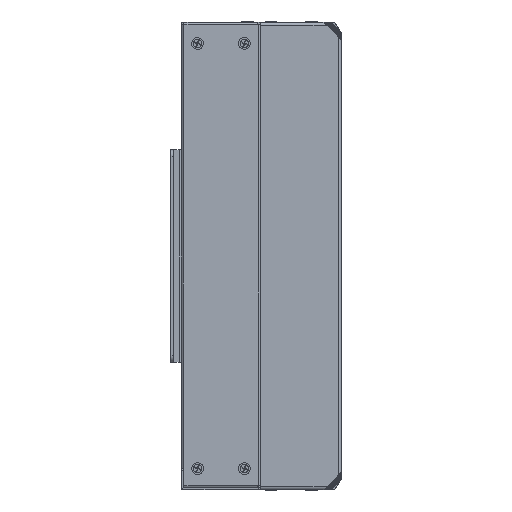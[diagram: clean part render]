
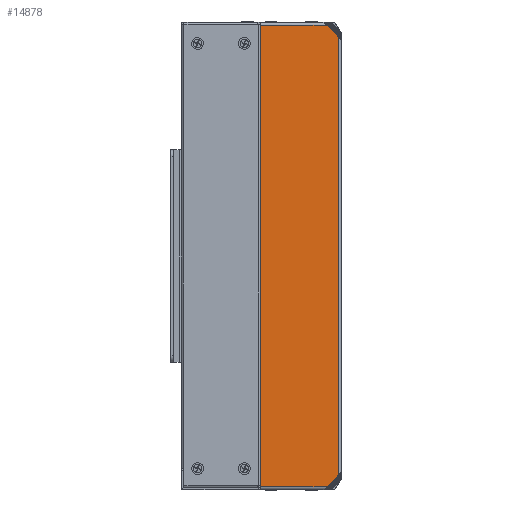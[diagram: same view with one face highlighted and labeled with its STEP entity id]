
A CAD part, left-side view. The second image highlights one B-rep face of the part: STEP entity #14878.
In plain terms, the highlighted planar face has unit normal (-1, 0, 0).
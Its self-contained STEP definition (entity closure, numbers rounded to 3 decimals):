
#2178 = ORIENTED_EDGE ( 'NONE', *, *, #38077, .F. ) ;
#4293 = CARTESIAN_POINT ( 'NONE',  ( -113., 6.5, -108.5 ) ) ;
#5379 = CARTESIAN_POINT ( 'NONE',  ( -113., 38., -108.5 ) ) ;
#8325 = EDGE_CURVE ( 'NONE', #10719, #95520, #38041, .T. ) ;
#9804 = AXIS2_PLACEMENT_3D ( 'NONE', #39769, #32645, #48190 ) ;
#10719 = VERTEX_POINT ( 'NONE', #86147 ) ;
#11771 = EDGE_CURVE ( 'NONE', #67568, #40532, #48731, .T. ) ;
#13556 = CARTESIAN_POINT ( 'NONE',  ( -113., 1., 103. ) ) ;
#14878 = ADVANCED_FACE ( 'NONE', ( #26165 ), #71258, .T. ) ;
#14995 = VECTOR ( 'NONE', #99016, 1000. ) ;
#17549 = VECTOR ( 'NONE', #21257, 1000. ) ;
#20617 = VECTOR ( 'NONE', #73492, 1000. ) ;
#21257 = DIRECTION ( 'NONE',  ( 0., 0., 1. ) ) ;
#23829 = EDGE_CURVE ( 'NONE', #88902, #51278, #74393, .T. ) ;
#25528 = LINE ( 'NONE', #85558, #40026 ) ;
#26165 = FACE_OUTER_BOUND ( 'NONE', #42929, .T. ) ;
#32058 = VECTOR ( 'NONE', #34133, 1000. ) ;
#32645 = DIRECTION ( 'NONE',  ( -1., 0., 0. ) ) ;
#34133 = DIRECTION ( 'NONE',  ( 0., 0., 1. ) ) ;
#35077 = ORIENTED_EDGE ( 'NONE', *, *, #8325, .T. ) ;
#37103 = CARTESIAN_POINT ( 'NONE',  ( -113., 38.6, -108.5 ) ) ;
#38041 = LINE ( 'NONE', #74755, #17549 ) ;
#38077 = EDGE_CURVE ( 'NONE', #51278, #67568, #52590, .T. ) ;
#39769 = CARTESIAN_POINT ( 'NONE',  ( -113., 0., -110. ) ) ;
#40026 = VECTOR ( 'NONE', #63460, 1000. ) ;
#40532 = VERTEX_POINT ( 'NONE', #44465 ) ;
#41960 = CARTESIAN_POINT ( 'NONE',  ( -113., 1., 103. ) ) ;
#42929 = EDGE_LOOP ( 'NONE', ( #74674, #86604, #35077, #61485, #50349, #2178 ) ) ;
#44465 = CARTESIAN_POINT ( 'NONE',  ( -113., 6.5, 108.5 ) ) ;
#48190 = DIRECTION ( 'NONE',  ( 0., 0., 1. ) ) ;
#48731 = LINE ( 'NONE', #83562, #14995 ) ;
#50349 = ORIENTED_EDGE ( 'NONE', *, *, #11771, .F. ) ;
#51278 = VERTEX_POINT ( 'NONE', #5379 ) ;
#52590 = LINE ( 'NONE', #65760, #32058 ) ;
#61485 = ORIENTED_EDGE ( 'NONE', *, *, #73565, .T. ) ;
#63460 = DIRECTION ( 'NONE',  ( 0., -0.707, 0.707 ) ) ;
#65760 = CARTESIAN_POINT ( 'NONE',  ( -113., 38., 0. ) ) ;
#67568 = VERTEX_POINT ( 'NONE', #68489 ) ;
#68489 = CARTESIAN_POINT ( 'NONE',  ( -113., 38., 108.5 ) ) ;
#71258 = PLANE ( 'NONE',  #9804 ) ;
#73492 = DIRECTION ( 'NONE',  ( 0., 0.707, 0.707 ) ) ;
#73565 = EDGE_CURVE ( 'NONE', #95520, #40532, #94056, .T. ) ;
#74101 = DIRECTION ( 'NONE',  ( 0., 1., 0. ) ) ;
#74393 = LINE ( 'NONE', #37103, #95967 ) ;
#74674 = ORIENTED_EDGE ( 'NONE', *, *, #23829, .F. ) ;
#74755 = CARTESIAN_POINT ( 'NONE',  ( -113., 1., -110. ) ) ;
#83562 = CARTESIAN_POINT ( 'NONE',  ( -113., 38.838, 108.5 ) ) ;
#85558 = CARTESIAN_POINT ( 'NONE',  ( -113., 6.5, -108.5 ) ) ;
#85873 = EDGE_CURVE ( 'NONE', #88902, #10719, #25528, .T. ) ;
#86147 = CARTESIAN_POINT ( 'NONE',  ( -113., 1., -103. ) ) ;
#86604 = ORIENTED_EDGE ( 'NONE', *, *, #85873, .T. ) ;
#88902 = VERTEX_POINT ( 'NONE', #4293 ) ;
#94056 = LINE ( 'NONE', #41960, #20617 ) ;
#95520 = VERTEX_POINT ( 'NONE', #13556 ) ;
#95967 = VECTOR ( 'NONE', #74101, 1000. ) ;
#99016 = DIRECTION ( 'NONE',  ( 0., -1., 0. ) ) ;
